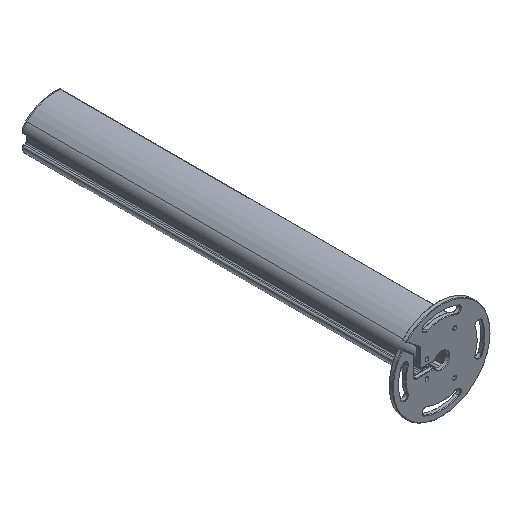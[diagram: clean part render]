
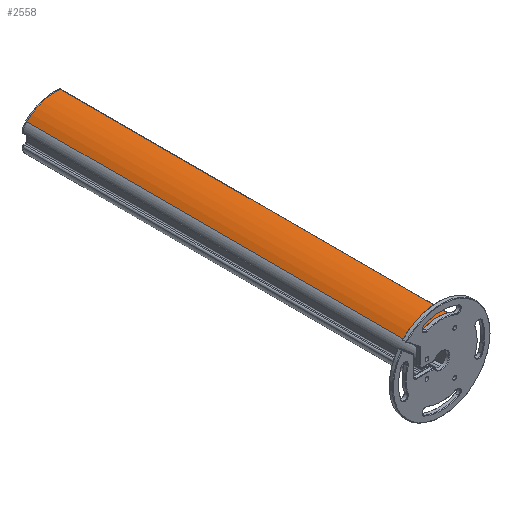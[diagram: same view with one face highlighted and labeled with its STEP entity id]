
A CAD part, isometric view. The second image highlights one B-rep face of the part: STEP entity #2558.
In plain terms, the highlighted cylindrical face has radius 79.059 mm (diameter 158.118 mm), a partial arc.
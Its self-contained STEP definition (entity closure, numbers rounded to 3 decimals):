
#72=CARTESIAN_POINT('',(24.886,-385.,-29.268));
#73=DIRECTION('',(0.,1.,0.));
#74=DIRECTION('',(-0.694,0.,0.72));
#75=AXIS2_PLACEMENT_3D('',#72,#73,#74);
#646=DIRECTION('',(0.,1.,0.));
#647=VECTOR('',#646,770.);
#648=CARTESIAN_POINT('',(35.448,-385.,49.083));
#649=LINE('',#648,#647);
#650=DIRECTION('',(0.,1.,0.));
#651=VECTOR('',#650,770.);
#652=CARTESIAN_POINT('',(-30.018,-385.,27.617));
#653=LINE('',#652,#651);
#1015=CARTESIAN_POINT('',(24.886,385.,-29.268));
#1016=DIRECTION('',(0.,1.,0.));
#1017=DIRECTION('',(-0.694,0.,0.72));
#1018=AXIS2_PLACEMENT_3D('',#1015,#1016,#1017);
#1116=CARTESIAN_POINT('',(-30.018,-385.,27.617));
#1117=VERTEX_POINT('',#1116);
#1118=CARTESIAN_POINT('',(35.448,-385.,49.083));
#1119=VERTEX_POINT('',#1118);
#1282=CARTESIAN_POINT('',(-30.018,385.,27.617));
#1283=VERTEX_POINT('',#1282);
#1284=CARTESIAN_POINT('',(35.448,385.,49.083));
#1285=VERTEX_POINT('',#1284);
#2545=CARTESIAN_POINT('',(24.886,-385.,-29.268));
#2546=DIRECTION('',(0.,1.,0.));
#2547=DIRECTION('',(1.,0.,0.));
#2548=AXIS2_PLACEMENT_3D('',#2545,#2546,#2547);
#2549=CYLINDRICAL_SURFACE('',#2548,79.059);
#2550=ORIENTED_EDGE('',*,*,#1453,.F.);
#2552=ORIENTED_EDGE('',*,*,#2551,.T.);
#2554=ORIENTED_EDGE('',*,*,#2553,.T.);
#2555=ORIENTED_EDGE('',*,*,#2537,.F.);
#2556=EDGE_LOOP('',(#2550,#2552,#2554,#2555));
#2557=FACE_OUTER_BOUND('',#2556,.F.);
#2558=ADVANCED_FACE('',(#2557),#2549,.T.);
#76=CIRCLE('',#75,79.059);
#1019=CIRCLE('',#1018,79.059);
#1453=EDGE_CURVE('',#1117,#1119,#76,.T.);
#2537=EDGE_CURVE('',#1119,#1285,#649,.T.);
#2551=EDGE_CURVE('',#1117,#1283,#653,.T.);
#2553=EDGE_CURVE('',#1283,#1285,#1019,.T.);
